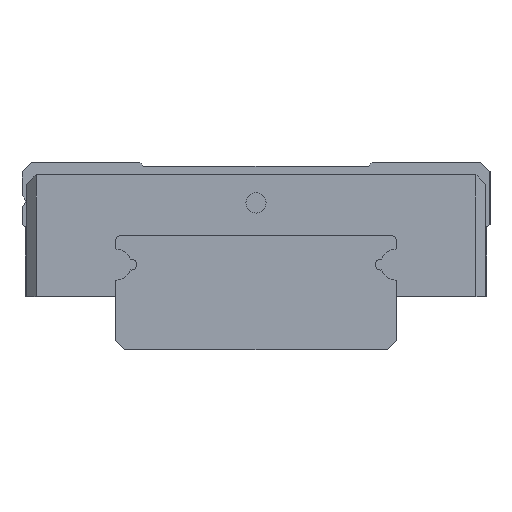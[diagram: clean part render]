
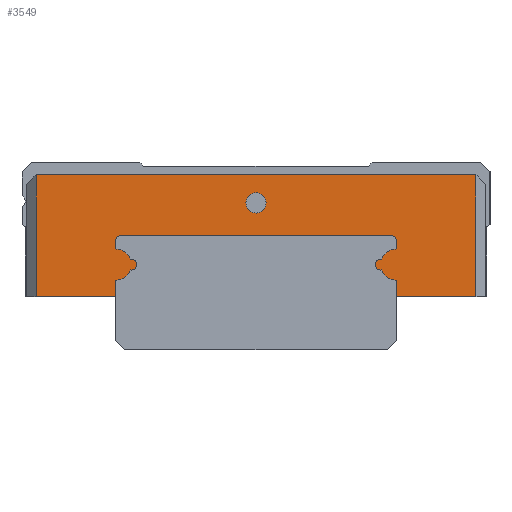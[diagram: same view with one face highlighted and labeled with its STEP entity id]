
A CAD part, left-side view. The second image highlights one B-rep face of the part: STEP entity #3549.
In plain terms, the highlighted planar face has unit normal (-1, 0, 0).
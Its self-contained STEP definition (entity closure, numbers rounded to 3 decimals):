
#1480=CARTESIAN_POINT('',(0.0,-14.1,3.4));
#1481=VERTEX_POINT('',#1480);
#1488=CARTESIAN_POINT('',(0.0,-9.,3.4));
#1489=VERTEX_POINT('',#1488);
#1490=CARTESIAN_POINT('',(0.0,-9.,3.4));
#1491=DIRECTION('',(0.0,-1.0,0.0));
#1492=VECTOR('',#1491,5.1);
#1493=LINE('',#1490,#1492);
#1494=EDGE_CURVE('',#1489,#1481,#1493,.T.);
#1591=CARTESIAN_POINT('',(0.0,14.1,11.2));
#1592=VERTEX_POINT('',#1591);
#1599=CARTESIAN_POINT('',(0.0,-14.1,11.2));
#1600=VERTEX_POINT('',#1599);
#1601=CARTESIAN_POINT('',(0.0,-14.1,11.2));
#1602=DIRECTION('',(0.0,1.0,0.0));
#1603=VECTOR('',#1602,28.2);
#1604=LINE('',#1601,#1603);
#1605=EDGE_CURVE('',#1600,#1592,#1604,.T.);
#1733=CARTESIAN_POINT('',(0.0,9.0,3.4));
#1734=VERTEX_POINT('',#1733);
#1741=CARTESIAN_POINT('',(0.0,14.1,3.4));
#1742=VERTEX_POINT('',#1741);
#1743=CARTESIAN_POINT('',(0.0,14.1,3.4));
#1744=DIRECTION('',(0.0,-1.0,0.0));
#1745=VECTOR('',#1744,5.1);
#1746=LINE('',#1743,#1745);
#1747=EDGE_CURVE('',#1742,#1734,#1746,.T.);
#2022=CARTESIAN_POINT('',(0.0,0.65,9.4));
#2023=VERTEX_POINT('',#2022);
#2024=CARTESIAN_POINT('',(0.0,0.0,9.4));
#2025=DIRECTION('',(1.0,0.0,0.0));
#2026=DIRECTION('',(0.0,-1.0,0.0));
#2027=AXIS2_PLACEMENT_3D('',#2024,#2025,#2026);
#2028=CIRCLE('',#2027,0.65);
#2029=EDGE_CURVE('',#2023,#2023,#2028,.T.);
#3021=CARTESIAN_POINT('',(0.0,14.1,11.2));
#3022=DIRECTION('',(0.0,0.0,-1.0));
#3023=VECTOR('',#3022,7.8);
#3024=LINE('',#3021,#3023);
#3025=EDGE_CURVE('',#1592,#1742,#3024,.T.);
#3055=CARTESIAN_POINT('',(0.0,-14.1,3.4));
#3056=DIRECTION('',(0.0,0.0,1.0));
#3057=VECTOR('',#3056,7.8);
#3058=LINE('',#3055,#3057);
#3059=EDGE_CURVE('',#1481,#1600,#3058,.T.);
#3095=CARTESIAN_POINT('',(0.0,9.,4.45));
#3096=VERTEX_POINT('',#3095);
#3103=CARTESIAN_POINT('',(0.0,9.0,3.4));
#3104=DIRECTION('',(0.0,0.0,1.0));
#3105=VECTOR('',#3104,1.05);
#3106=LINE('',#3103,#3105);
#3107=EDGE_CURVE('',#1734,#3096,#3106,.T.);
#3127=CARTESIAN_POINT('',(0.0,8.061,5.105));
#3128=VERTEX_POINT('',#3127);
#3135=CARTESIAN_POINT('',(0.0,9.0,5.45));
#3136=DIRECTION('',(-1.0,0.0,0.0));
#3137=DIRECTION('',(0.0,0.939,0.345));
#3138=AXIS2_PLACEMENT_3D('',#3135,#3136,#3137);
#3139=CIRCLE('',#3138,1.);
#3140=EDGE_CURVE('',#3096,#3128,#3139,.T.);
#3160=CARTESIAN_POINT('',(0.0,8.061,5.795));
#3161=VERTEX_POINT('',#3160);
#3168=CARTESIAN_POINT('',(0.0,8.0,5.45));
#3169=DIRECTION('',(-1.0,0.0,0.0));
#3170=DIRECTION('',(0.0,-0.175,-0.985));
#3171=AXIS2_PLACEMENT_3D('',#3168,#3169,#3170);
#3172=CIRCLE('',#3171,0.35);
#3173=EDGE_CURVE('',#3128,#3161,#3172,.T.);
#3193=CARTESIAN_POINT('',(0.0,9.0,6.45));
#3194=VERTEX_POINT('',#3193);
#3201=CARTESIAN_POINT('',(0.0,9.0,5.45));
#3202=DIRECTION('',(-1.0,0.0,0.0));
#3203=DIRECTION('',(0.0,0.0,-1.0));
#3204=AXIS2_PLACEMENT_3D('',#3201,#3202,#3203);
#3205=CIRCLE('',#3204,1.);
#3206=EDGE_CURVE('',#3161,#3194,#3205,.T.);
#3225=CARTESIAN_POINT('',(0.0,9.,7.));
#3226=VERTEX_POINT('',#3225);
#3233=CARTESIAN_POINT('',(0.0,9.0,6.45));
#3234=DIRECTION('',(0.0,0.0,1.0));
#3235=VECTOR('',#3234,0.55);
#3236=LINE('',#3233,#3235);
#3237=EDGE_CURVE('',#3194,#3226,#3236,.T.);
#3257=CARTESIAN_POINT('',(0.0,8.7,7.3));
#3258=VERTEX_POINT('',#3257);
#3265=CARTESIAN_POINT('',(0.0,8.7,7.));
#3266=DIRECTION('',(1.0,0.0,0.0));
#3267=DIRECTION('',(0.0,1.0,0.0));
#3268=AXIS2_PLACEMENT_3D('',#3265,#3266,#3267);
#3269=CIRCLE('',#3268,0.3);
#3270=EDGE_CURVE('',#3226,#3258,#3269,.T.);
#3289=CARTESIAN_POINT('',(0.0,-8.7,7.3));
#3290=VERTEX_POINT('',#3289);
#3297=CARTESIAN_POINT('',(0.0,8.7,7.3));
#3298=DIRECTION('',(0.0,-1.0,0.0));
#3299=VECTOR('',#3298,17.4);
#3300=LINE('',#3297,#3299);
#3301=EDGE_CURVE('',#3258,#3290,#3300,.T.);
#3321=CARTESIAN_POINT('',(0.0,-9.,7.));
#3322=VERTEX_POINT('',#3321);
#3329=CARTESIAN_POINT('',(0.0,-8.7,7.));
#3330=DIRECTION('',(1.0,0.0,0.0));
#3331=DIRECTION('',(0.0,0.0,1.0));
#3332=AXIS2_PLACEMENT_3D('',#3329,#3330,#3331);
#3333=CIRCLE('',#3332,0.3);
#3334=EDGE_CURVE('',#3290,#3322,#3333,.T.);
#3353=CARTESIAN_POINT('',(0.0,-9.,6.45));
#3354=VERTEX_POINT('',#3353);
#3361=CARTESIAN_POINT('',(0.0,-9.,7.));
#3362=DIRECTION('',(0.0,0.0,-1.0));
#3363=VECTOR('',#3362,0.55);
#3364=LINE('',#3361,#3363);
#3365=EDGE_CURVE('',#3322,#3354,#3364,.T.);
#3385=CARTESIAN_POINT('',(0.0,-8.061,5.795));
#3386=VERTEX_POINT('',#3385);
#3393=CARTESIAN_POINT('',(0.0,-9.,5.45));
#3394=DIRECTION('',(-1.0,0.0,0.0));
#3395=DIRECTION('',(0.0,-0.939,-0.345));
#3396=AXIS2_PLACEMENT_3D('',#3393,#3394,#3395);
#3397=CIRCLE('',#3396,1.);
#3398=EDGE_CURVE('',#3354,#3386,#3397,.T.);
#3418=CARTESIAN_POINT('',(0.0,-8.061,5.105));
#3419=VERTEX_POINT('',#3418);
#3426=CARTESIAN_POINT('',(0.0,-8.,5.45));
#3427=DIRECTION('',(-1.,0.0,0.0));
#3428=DIRECTION('',(0.0,0.175,0.985));
#3429=AXIS2_PLACEMENT_3D('',#3426,#3427,#3428);
#3430=CIRCLE('',#3429,0.35);
#3431=EDGE_CURVE('',#3386,#3419,#3430,.T.);
#3451=CARTESIAN_POINT('',(0.0,-9.,4.45));
#3452=VERTEX_POINT('',#3451);
#3459=CARTESIAN_POINT('',(0.0,-9.,5.45));
#3460=DIRECTION('',(-1.0,0.0,0.0));
#3461=DIRECTION('',(0.0,0.0,1.0));
#3462=AXIS2_PLACEMENT_3D('',#3459,#3460,#3461);
#3463=CIRCLE('',#3462,1.0);
#3464=EDGE_CURVE('',#3419,#3452,#3463,.T.);
#3482=CARTESIAN_POINT('',(0.0,-9.,4.45));
#3483=DIRECTION('',(0.0,0.0,-1.0));
#3484=VECTOR('',#3483,1.05);
#3485=LINE('',#3482,#3484);
#3486=EDGE_CURVE('',#3452,#1489,#3485,.T.);
#3521=CARTESIAN_POINT('',(0.0,0.,7.889));
#3522=DIRECTION('',(1.0,0.0,0.0));
#3523=DIRECTION('',(0.0,0.0,-1.0));
#3524=AXIS2_PLACEMENT_3D('',#3521,#3522,#3523);
#3525=PLANE('',#3524);
#3526=ORIENTED_EDGE('',*,*,#1494,.T.);
#3527=ORIENTED_EDGE('',*,*,#3059,.T.);
#3528=ORIENTED_EDGE('',*,*,#1605,.T.);
#3529=ORIENTED_EDGE('',*,*,#3025,.T.);
#3530=ORIENTED_EDGE('',*,*,#1747,.T.);
#3531=ORIENTED_EDGE('',*,*,#3107,.T.);
#3532=ORIENTED_EDGE('',*,*,#3140,.T.);
#3533=ORIENTED_EDGE('',*,*,#3173,.T.);
#3534=ORIENTED_EDGE('',*,*,#3206,.T.);
#3535=ORIENTED_EDGE('',*,*,#3237,.T.);
#3536=ORIENTED_EDGE('',*,*,#3270,.T.);
#3537=ORIENTED_EDGE('',*,*,#3301,.T.);
#3538=ORIENTED_EDGE('',*,*,#3334,.T.);
#3539=ORIENTED_EDGE('',*,*,#3365,.T.);
#3540=ORIENTED_EDGE('',*,*,#3398,.T.);
#3541=ORIENTED_EDGE('',*,*,#3431,.T.);
#3542=ORIENTED_EDGE('',*,*,#3464,.T.);
#3543=ORIENTED_EDGE('',*,*,#3486,.T.);
#3544=EDGE_LOOP('',(#3526,#3527,#3528,#3529,#3530,#3531,#3532,#3533,#3534,#3535,#3536,#3537,#3538,#3539,#3540,#3541,#3542,#3543));
#3545=FACE_OUTER_BOUND('',#3544,.T.);
#3546=ORIENTED_EDGE('',*,*,#2029,.T.);
#3547=EDGE_LOOP('',(#3546));
#3548=FACE_BOUND('',#3547,.T.);
#3549=ADVANCED_FACE('',(#3545,#3548),#3525,.F.);
